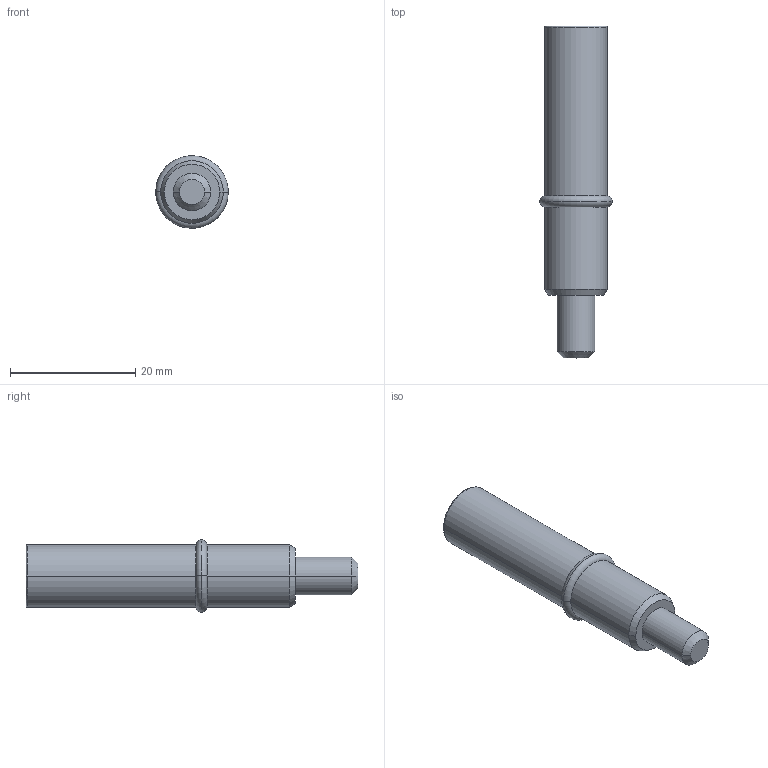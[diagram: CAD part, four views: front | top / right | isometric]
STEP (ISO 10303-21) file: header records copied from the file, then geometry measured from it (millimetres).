
FILE_DESCRIPTION (( 'STEP AP203' ), '1' );
FILE_NAME ('013.100.018.STEP', '2020-11-09T08:50:34', ( '' ), ( '' ), 'SwSTEP 2.0', 'SolidWorks 2018', '' );
FILE_SCHEMA (( 'CONFIG_CONTROL_DESIGN' ));
Length unit declared in the file: millimetre
Products named in the file (3): 013.100.018; O-ring DIN 3771 - 8x1.8_O-ring DIN 3771 - 8x1.8; 013.100.018A
Assembly tree (2 placements, depth 2):
  013.100.018
    013.100.018A
    O-ring DIN 3771 - 8x1.8_O-ring DIN 3771 - 8x1.8
Bounding box: 11.6 x 53 x 11.6 mm (x, y, z)
Volume: 3558.3 mm3; surface area: 1975.2 mm2
Topology: 2 solids, 2 shells, 30 faces, 62 edges, 38 vertices
Faces by surface type: plane 12, cylinder 8, torus 6, cone 4
Entity records: 1107 total; most frequent: DIRECTION 164, CARTESIAN_POINT 135, ORIENTED_EDGE 124, AXIS2_PLACEMENT_3D 67, EDGE_CURVE 62, VERTEX_POINT 38, EDGE_LOOP 34, CIRCLE 32
